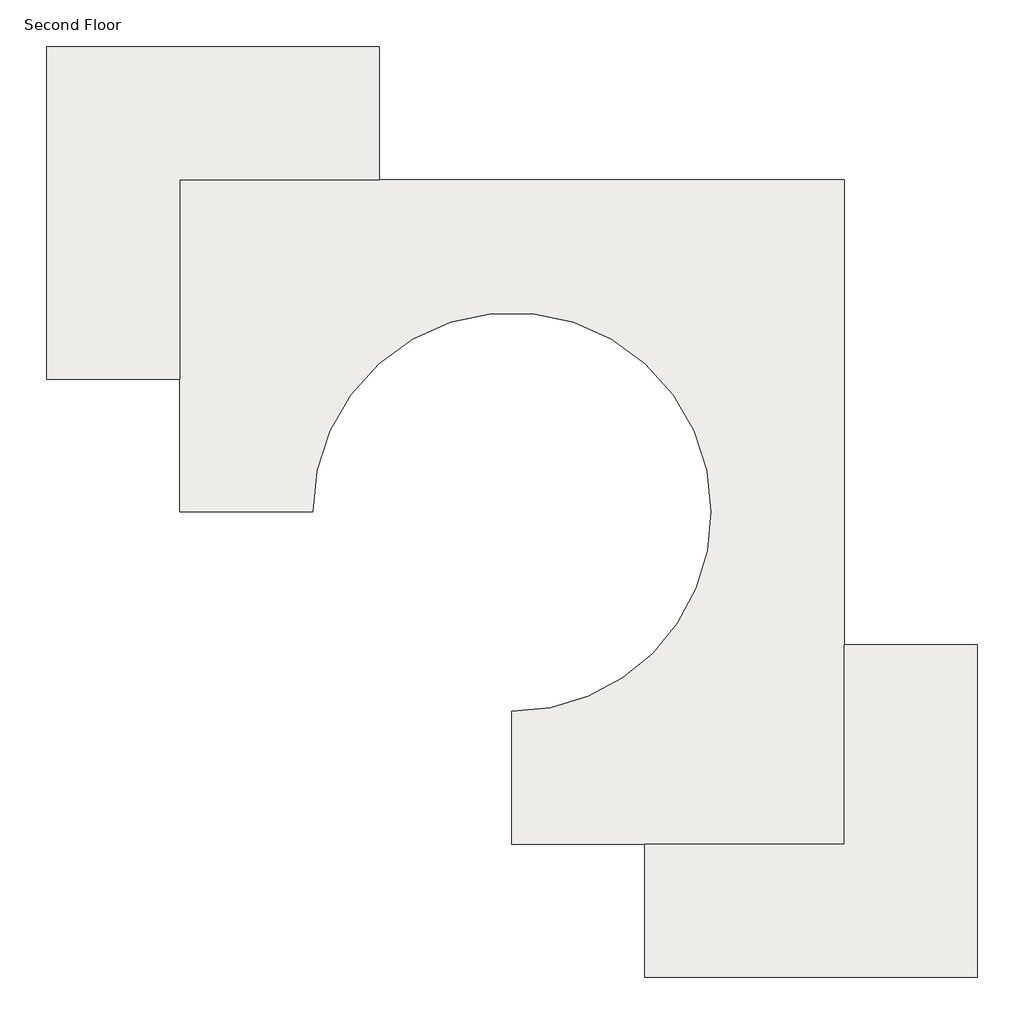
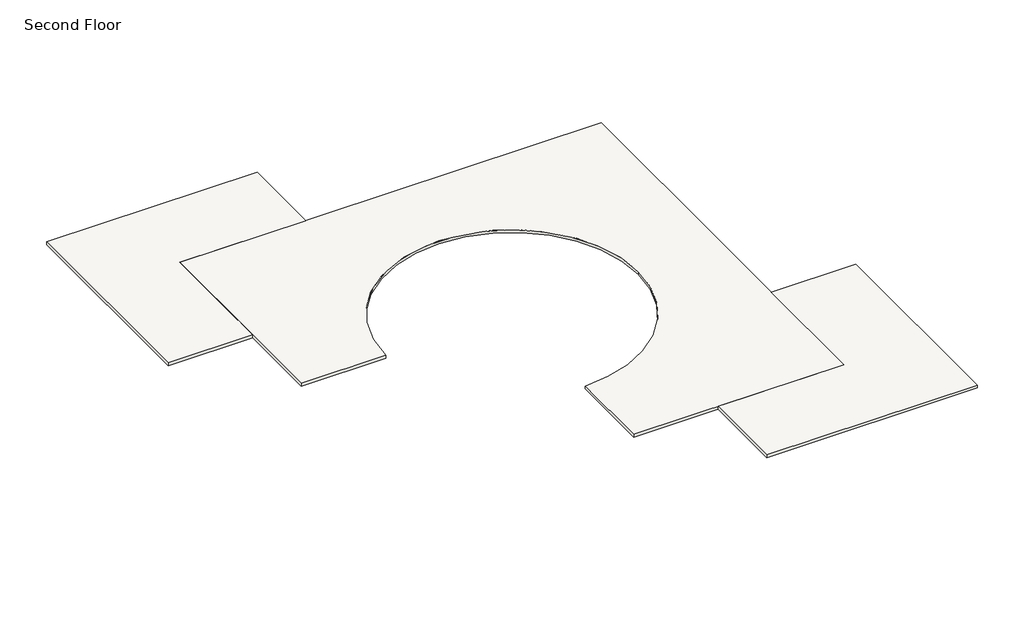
# One storey, incomplete: 3 slabs.
"""IFC4 building model written with IfcOpenShell, lengths in millimetres."""

import ifcopenshell
import ifcopenshell.guid

model = None  # the IFC model being written
_history = None  # IfcOwnerHistory: only IFC2X3 demands one
_inside = {}  # id of a spatial element -> (the spatial element, [elements in it])
_under = {}  # id of a project, library or spatial element -> (it, [spatial elements below it])
_declared = {}  # id of a project -> (the project, [libraries it declares])
_typed = {}  # id of a type object -> (the type object, [elements of that type])
_made_of = {}  # id of a material, layer set ... -> (it, [elements and type objects made of it])


def new_model(schema):
    """Start an empty IFC model of exactly this schema.

    Asked for "IFC4X3", IfcOpenShell would pick the latest addendum, in which some entities
    have other attributes; the version numbers below select the first issue.
    IFC2X3 requires an IfcOwnerHistory on every rooted entity: one is made here for all.
    """
    global model, _history
    if schema == "IFC4X3":
        model = ifcopenshell.file(schema_version=(4, 3, 0, 0))
    else:
        model = ifcopenshell.file(schema=schema)
    _inside.clear()
    _under.clear()
    _declared.clear()
    _typed.clear()
    _made_of.clear()
    _history = None
    if model.schema == "IFC2X3":
        org = make("IfcOrganization", Name="unknown")
        user = make(
            "IfcPersonAndOrganization",
            ThePerson=make("IfcPerson", FamilyName="unknown"),
            TheOrganization=org,
        )
        app = make(
            "IfcApplication",
            ApplicationDeveloper=org,
            Version="unknown",
            ApplicationFullName="unknown",
            ApplicationIdentifier="unknown",
        )
        _history = make(
            "IfcOwnerHistory",
            OwningUser=user,
            OwningApplication=app,
            ChangeAction="ADDED",
            CreationDate=0,
        )
    return model


def make(cls, **values):
    """One entity of the class cls with the attributes given. An attribute that is None is left unset."""
    return model.create_entity(
        cls, **{name: value for name, value in values.items() if value is not None}
    )


def rooted(cls, **values):
    """An entity with a GlobalId (a new one), such as an element, a storey or a relation."""
    return make(cls, GlobalId=ifcopenshell.guid.new(), OwnerHistory=_history, **values)


def si_unit(unit_type, name, prefix=None):
    """IfcSIUnit, for example si_unit("LENGTHUNIT", "METRE", prefix="MILLI")."""
    return make("IfcSIUnit", UnitType=unit_type, Prefix=prefix, Name=name)


def assignment(units):
    """IfcUnitAssignment: the units of a project."""
    return None if units is None else make("IfcUnitAssignment", Units=units)


def point(xyz):
    """IfcCartesianPoint."""
    return None if xyz is None else make("IfcCartesianPoint", Coordinates=xyz)


def direction(xyz):
    """IfcDirection."""
    return None if xyz is None else make("IfcDirection", DirectionRatios=xyz)


def frame(location, z_axis=None, x_axis=None):
    """IfcAxis2Placement3D, a coordinate frame: its origin and axes. An axis left out is left unset."""
    return make(
        "IfcAxis2Placement3D",
        Location=point(location),
        Axis=direction(z_axis),
        RefDirection=direction(x_axis),
    )


def frame_2d(location, x_axis=None):
    """IfcAxis2Placement2D, a coordinate frame in the plane: its origin and x axis."""
    return make(
        "IfcAxis2Placement2D", Location=point(location), RefDirection=direction(x_axis)
    )


def origin():
    """The frame at (0, 0, 0) with its axes left unset."""
    return frame((0.0, 0.0, 0.0))


def place(relative_to, where):
    """IfcLocalPlacement: puts the frame where relative to a parent placement (None: the world)."""
    return make(
        "IfcLocalPlacement", PlacementRelTo=relative_to, RelativePlacement=where
    )


def context(
    kind, dimensions, precision=None, world=None, true_north=None, identifier=None
):
    """IfcGeometricRepresentationContext, for example the 3D "Model" context."""
    return make(
        "IfcGeometricRepresentationContext",
        ContextIdentifier=identifier,
        ContextType=kind,
        CoordinateSpaceDimension=dimensions,
        Precision=precision,
        WorldCoordinateSystem=world,
        TrueNorth=true_north,
    )


def project(units=None, contexts=None):
    """IfcProject with its units and contexts."""
    return rooted(
        "IfcProject",
        Name="project",
        RepresentationContexts=contexts,
        UnitsInContext=assignment(units),
    )


def spatial(cls, under=None, at=None, **own):
    """A site, building, storey or space (cls), placed at a placement, below another one or the project."""
    s = rooted(cls, ObjectPlacement=at, **own)
    if under is not None:
        _under.setdefault(under.id(), (under, []))[1].append(s)
    return s


def polyline(points):
    """IfcPolyline through the points."""
    return make("IfcPolyline", Points=[point(p) for p in points])


def circle_curve(where, radius):
    """IfcCircle in the frame where."""
    return make("IfcCircle", Position=where, Radius=radius)


def trimmed(basis, trim1, trim2, sense, master):
    """IfcTrimmedCurve: the piece of a basis curve between two trims."""
    return make(
        "IfcTrimmedCurve",
        BasisCurve=basis,
        Trim1=trim1,
        Trim2=trim2,
        SenseAgreement=sense,
        MasterRepresentation=master,
    )


def segment(curve, same_sense, transition):
    """IfcCompositeCurveSegment."""
    return make(
        "IfcCompositeCurveSegment",
        Transition=transition,
        SameSense=same_sense,
        ParentCurve=curve,
    )


def composite_curve(segments, self_intersect=None):
    """IfcCompositeCurve: segments joined end to end."""
    return make("IfcCompositeCurve", Segments=segments, SelfIntersect=self_intersect)


def outline(outer, holes=None, kind="AREA"):
    """IfcArbitraryClosedProfileDef: a profile drawn as a closed curve; with holes, ...WithVoids."""
    if holes is None:
        return make("IfcArbitraryClosedProfileDef", ProfileType=kind, OuterCurve=outer)
    return make(
        "IfcArbitraryProfileDefWithVoids",
        ProfileType=kind,
        OuterCurve=outer,
        InnerCurves=holes,
    )


def extrude(swept, where, along, depth):
    """IfcExtrudedAreaSolid: the profile swept, set in the frame where, extruded along a direction by depth."""
    return make(
        "IfcExtrudedAreaSolid",
        SweptArea=swept,
        Position=where,
        ExtrudedDirection=direction(along),
        Depth=depth,
    )


def shape(context_of_items, identifier, shape_type, items):
    """IfcShapeRepresentation: the items that make up one representation, for example the "Body"."""
    return make(
        "IfcShapeRepresentation",
        ContextOfItems=context_of_items,
        RepresentationIdentifier=identifier,
        RepresentationType=shape_type,
        Items=items,
    )


def made_of(thing, what):
    """Note that an element or type object is made of a material, layer set ...; save() writes the relation."""
    if what is not None:
        _made_of.setdefault(what.id(), (what, []))[1].append(thing)
    return thing


def element(
    cls,
    number,
    at=None,
    inside=None,
    cuts=None,
    type_object=None,
    material=None,
    context=None,
    identifier="Body",
    shape_type=None,
    held_by="IfcProductDefinitionShape",
    body=None,
    shapes=None,
    **own,
):
    """One element of the class cls, such as IfcWall. Its Tag is "e" and its number.

    at: its placement. inside: the storey or other place that contains it. cuts: it is an
    opening in that element (IfcRelVoidsElement). A single representation is given by context,
    identifier, shape_type and body (its items); several are given by shapes. held_by: the class
    of the entity that holds the representations. save() writes the other relations.
    """
    e = rooted(cls, Tag="e%d" % number, ObjectPlacement=at, **own)
    if body is not None:
        shapes = [shape(context, identifier, shape_type, body)]
    if shapes is not None:
        e.Representation = make(held_by, Representations=shapes)
    if inside is not None:
        _inside.setdefault(inside.id(), (inside, []))[1].append(e)
    if cuts is not None:
        rooted(
            "IfcRelVoidsElement", RelatingBuildingElement=cuts, RelatedOpeningElement=e
        )
    if type_object is not None:
        _typed.setdefault(type_object.id(), (type_object, []))[1].append(e)
    return made_of(e, material)


def aggregate(whole, parts):
    """IfcRelAggregates: a whole, such as a stair, and the parts it consists of."""
    return rooted("IfcRelAggregates", RelatingObject=whole, RelatedObjects=parts)


def save(model, path):
    """Write the relations noted so far, then the file.

    IfcRelAggregates (storeys below a building ...), IfcRelContainedInSpatialStructure (elements
    in a storey), IfcRelDefinesByType, IfcRelAssociatesMaterial and IfcRelDeclares: one each for
    every whole, place, type object, material and project.
    """
    for whole, parts in _under.values():
        aggregate(whole, parts)
    for where, things in _inside.values():
        rooted(
            "IfcRelContainedInSpatialStructure",
            RelatedElements=things,
            RelatingStructure=where,
        )
    for kind, things in _typed.values():
        rooted("IfcRelDefinesByType", RelatedObjects=things, RelatingType=kind)
    for what, things in _made_of.values():
        rooted("IfcRelAssociatesMaterial", RelatedObjects=things, RelatingMaterial=what)
    for by, libraries in _declared.values():
        rooted("IfcRelDeclares", RelatingContext=by, RelatedDefinitions=libraries)
    model.write(path)


model = new_model("IFC4")

# Units and contexts
model_context = context("Model", 3, world=origin())
ifc_project = project(units=[si_unit("LENGTHUNIT", "METRE", prefix="MILLI")], contexts=[model_context])

# Site, building, storey
site = spatial("IfcSite", under=ifc_project)
building = spatial("IfcBuilding", under=site)
storey = spatial("IfcBuildingStorey", under=building, Name="Second Floor", Elevation=3048.0)

# Slabs
placement = place(None, origin())
element("IfcSlab", 1, ObjectType="LW Concrete on Metal Deck", at=placement, inside=storey, context=model_context, shape_type="SweptSolid", body=[
    extrude(outline(polyline([(8196.8943843, -3733.9860776), (8196.8943843, -11353.9860776), (576.8943843, -11353.9860776), (576.8943843, -8305.9860776), (5148.8943843, -8305.9860776), (5148.8943843, -3733.9860776), (8196.8943843, -3733.9860776)])), frame((0.0, 0.0, 2943.225), z_axis=(0.0, 0.0, 1.0), x_axis=(1.0, 0.0, 0.0)), (0.0, 0.0, 1.0), 104.775),
    extrude(outline(polyline([(-5519.1056157, 9982.0139224), (-5519.1056157, 6934.0139224), (-10091.1056157, 6934.0139224), (-10091.1056157, 2362.0139224), (-13139.1056157, 2362.0139224), (-13139.1056157, 9982.0139224), (-5519.1056157, 9982.0139224)])), frame((0.0, 0.0, 2943.225), z_axis=(0.0, 0.0, 1.0), x_axis=(1.0, 0.0, 0.0)), (0.0, 0.0, 1.0), 104.775),
])
element("IfcSlab", 2, ObjectType="LW Concrete on Metal Deck", at=placement, inside=storey, context=model_context, shape_type="SweptSolid", body=[
    extrude(outline(composite_curve([segment(polyline([(5148.8943843, 6934.0139224), (5148.8943843, -8305.9860776), (-2471.1056157, -8305.9860776), (-2471.1056157, -5257.9860776)]), True, "CONTINUOUS"), segment(trimmed(circle_curve(frame_2d((-2471.1056157, -685.9860776)), 4572.0), [point((-2471.1056157, -5257.9860776))], [point((2100.8943843, -685.9860776))], True, "CARTESIAN"), True, "CONTINUOUS"), segment(trimmed(circle_curve(frame_2d((-2471.1056157, -685.9860776)), 4572.0), [point((2100.8943843, -685.9860776))], [point((-7043.1056157, -685.9860776))], True, "CARTESIAN"), True, "CONTINUOUS"), segment(polyline([(-7043.1056157, -685.9860776), (-10091.1056157, -685.9860776), (-10091.1056157, 6934.0139224), (5148.8943843, 6934.0139224)]), True, "CONTINUOUS")], self_intersect=False)), frame((0.0, 0.0, 2943.225), z_axis=(0.0, 0.0, 1.0), x_axis=(1.0, 0.0, 0.0)), (0.0, 0.0, 1.0), 104.775),
])
element("IfcSlab", 3, ObjectType="LW Concrete on Metal Deck", at=placement, inside=storey, context=model_context, shape_type="SweptSolid", body=[
    extrude(outline(polyline([(8196.8943843, -3733.9860776), (8196.8943843, -11353.9860776), (576.8943843, -11353.9860776), (576.8943843, -8305.9860776), (5148.8943843, -8305.9860776), (5148.8943843, -3733.9860776), (8196.8943843, -3733.9860776)])), frame((0.0, 0.0, 2943.225), z_axis=(0.0, 0.0, 1.0), x_axis=(1.0, 0.0, 0.0)), (0.0, 0.0, 1.0), 104.775),
    extrude(outline(polyline([(-5519.1056157, 9982.0139224), (-5519.1056157, 6934.0139224), (-10091.1056157, 6934.0139224), (-10091.1056157, 2362.0139224), (-13139.1056157, 2362.0139224), (-13139.1056157, 9982.0139224), (-5519.1056157, 9982.0139224)])), frame((0.0, 0.0, 2943.225), z_axis=(0.0, 0.0, 1.0), x_axis=(1.0, 0.0, 0.0)), (0.0, 0.0, 1.0), 104.775),
])

save(model, "model.ifc")
